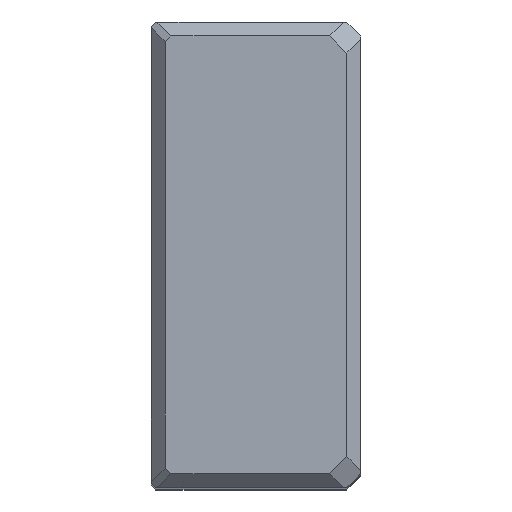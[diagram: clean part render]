
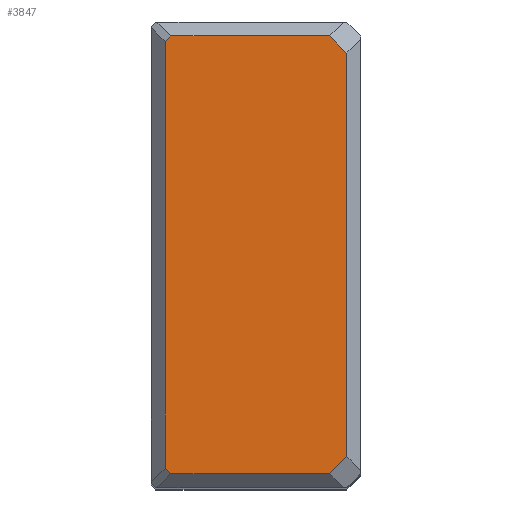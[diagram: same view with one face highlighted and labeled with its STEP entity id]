
A CAD part, top view. The second image highlights one B-rep face of the part: STEP entity #3847.
In plain terms, the highlighted planar face has unit normal (0, 0, 1).
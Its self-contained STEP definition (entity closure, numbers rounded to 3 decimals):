
#95=VERTEX_POINT(' ',#96);
#96=CARTESIAN_POINT('',(-3.,-43.326,0.));
#97=VERTEX_POINT(' ',#98);
#98=CARTESIAN_POINT('',(-6.674,-47.,0.));
#127=VERTEX_POINT(' ',#128);
#128=CARTESIAN_POINT('',(-3.,43.326,0.));
#135=VERTEX_POINT(' ',#136);
#136=CARTESIAN_POINT('',(-6.674,47.,0.));
#161=VERTEX_POINT(' ',#162);
#162=CARTESIAN_POINT('',(-40.775,-47.,0.));
#169=VERTEX_POINT(' ',#170);
#170=CARTESIAN_POINT('',(-42.,-45.775,0.));
#189=VERTEX_POINT(' ',#190);
#190=CARTESIAN_POINT('',(-42.,45.775,0.));
#193=VERTEX_POINT(' ',#194);
#194=CARTESIAN_POINT('',(-40.775,47.,0.));
#752=LINE('',#753,#754);
#753=CARTESIAN_POINT('',(20.163,-20.163,0.));
#754=VECTOR('',#755,1.);
#755=DIRECTION('',(0.707,0.707,0.));
#756=EDGE_CURVE(' ',#95,#97,#752,.F.);
#882=LINE('',#883,#884);
#883=CARTESIAN_POINT('',(-3.,-50.12,0.));
#884=VECTOR('',#885,1.);
#885=DIRECTION('',(0.,1.,0.));
#886=EDGE_CURVE(' ',#95,#127,#882,.T.);
#907=LINE('',#908,#909);
#908=CARTESIAN_POINT('',(20.163,20.163,0.));
#909=VECTOR('',#910,1.);
#910=DIRECTION('',(-0.707,0.707,0.));
#911=EDGE_CURVE(' ',#135,#127,#907,.F.);
#1057=LINE('',#1058,#1059);
#1058=CARTESIAN_POINT('',(-45.12,-47.,0.));
#1059=VECTOR('',#1060,1.);
#1060=DIRECTION('',(1.,0.,0.));
#1061=EDGE_CURVE(' ',#161,#97,#1057,.T.);
#1072=LINE('',#1073,#1074);
#1073=CARTESIAN_POINT('',(-43.888,-43.888,0.));
#1074=VECTOR('',#1075,1.);
#1075=DIRECTION('',(0.707,-0.707,0.));
#1076=EDGE_CURVE(' ',#161,#169,#1072,.F.);
#1169=LINE('',#1170,#1171);
#1170=CARTESIAN_POINT('',(-42.,-50.12,0.));
#1171=VECTOR('',#1172,1.);
#1172=DIRECTION('',(0.,1.,0.));
#1173=EDGE_CURVE(' ',#169,#189,#1169,.T.);
#1174=LINE('',#1175,#1176);
#1175=CARTESIAN_POINT('',(-43.888,43.888,0.));
#1176=VECTOR('',#1177,1.);
#1177=DIRECTION('',(-0.707,-0.707,0.));
#1178=EDGE_CURVE(' ',#189,#193,#1174,.F.);
#1179=LINE('',#1180,#1181);
#1180=CARTESIAN_POINT('',(-45.12,47.,0.));
#1181=VECTOR('',#1182,1.);
#1182=DIRECTION('',(1.,0.,0.));
#1183=EDGE_CURVE(' ',#135,#193,#1179,.F.);
#3832=ORIENTED_EDGE('',*,*,#1178,.F.);
#3833=ORIENTED_EDGE('',*,*,#1173,.F.);
#3834=ORIENTED_EDGE('',*,*,#1076,.F.);
#3835=ORIENTED_EDGE('',*,*,#1061,.T.);
#3836=ORIENTED_EDGE('',*,*,#756,.F.);
#3837=ORIENTED_EDGE('',*,*,#886,.T.);
#3838=ORIENTED_EDGE('',*,*,#911,.F.);
#3839=ORIENTED_EDGE('',*,*,#1183,.T.);
#3840=EDGE_LOOP('',(#3832,#3833,#3834,#3835,#3836,#3837,#3838,#3839));
#3841=FACE_OUTER_BOUND('',#3840,.T.);
#3842=PLANE('',#3843);
#3843=AXIS2_PLACEMENT_3D('',#3844,#3845,#3846);
#3844=CARTESIAN_POINT('',(-42.,0.,0.));
#3845=DIRECTION('',(0.,0.,1.));
#3846=DIRECTION('',(1.,0.,0.));
#3847=ADVANCED_FACE('',(#3841),#3842,.T.);
